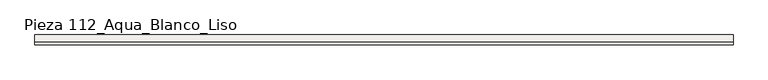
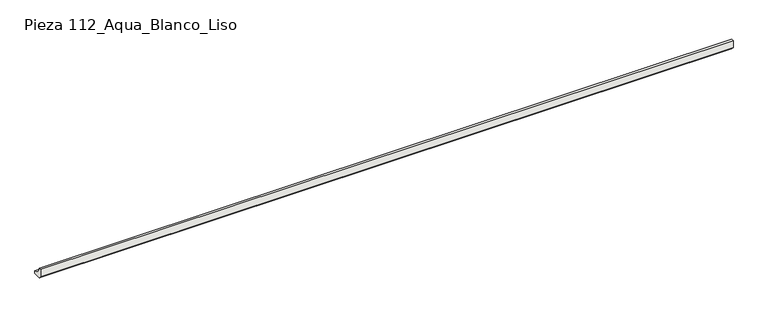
"""IFC4 building model written with IfcOpenShell, lengths in millimetres: slab geometry, ROSA GRES_112 : Pieza 112_Aqua_Blanco_Liso."""

from ifc_helpers import new_model, si_unit, point, frame, frame_2d, origin, place, context, project, spatial, polyline, circle_curve, trimmed, segment, composite_curve, outline, extrude, source, transform, mapped, element, save


def pieza_112_aqua_blanco_liso_a6c1c1e5(model_context):
    return source(origin(), model_context, "Body", "SweptSolid", [
        extrude(outline(composite_curve([segment(polyline([(-9.9734114, 8.7114978), (-9.9734114, 40.0), (0.0, 40.0)]), True, "CONTINUOUS"), segment(trimmed(circle_curve(frame_2d((30.0221432, 39.9955547)), 30.0221435), [point((0.0, 40.0))], [point((30.0265886, 9.9734114))], True, "CARTESIAN"), True, "CONTINUOUS"), segment(polyline([(30.0265886, 9.9734114), (30.0265886, 0.0), (-1.2619137, 0.0), (-9.9734114, 8.7114978)]), True, "CONTINUOUS")], self_intersect=False)), frame((0.0, 0.0, 0.0), z_axis=(1.0, 0.0, 0.0), x_axis=(0.0, 1.0, 0.0)), (0.0, 0.0, 1.0), 2779.8565596),
    ])


if __name__ == "__main__":
    model = new_model("IFC4")
    model_context = context("Model", 3, world=origin())
    ifc_project = project(units=[si_unit("LENGTHUNIT", "METRE", prefix="MILLI")], contexts=[model_context])
    site = spatial("IfcSite", under=ifc_project)
    building = spatial("IfcBuilding", under=site)
    placement = place(None, origin())
    pieza_112_aqua_blanco_liso_shape = pieza_112_aqua_blanco_liso_a6c1c1e5(model_context)
    element("IfcSlab", 1, ObjectType="ROSA GRES_112 : Pieza 112_Aqua_Blanco_Liso", at=placement, inside=building, context=model_context, shape_type="MappedRepresentation", body=[
        mapped(pieza_112_aqua_blanco_liso_shape, transform((0.0, 0.0, 0.0), x_axis=(1.0, 0.0, 0.0), y_axis=(0.0, 1.0, 0.0), z_axis=(0.0, 0.0, 1.0))),
    ])
    save(model, "model.ifc")
